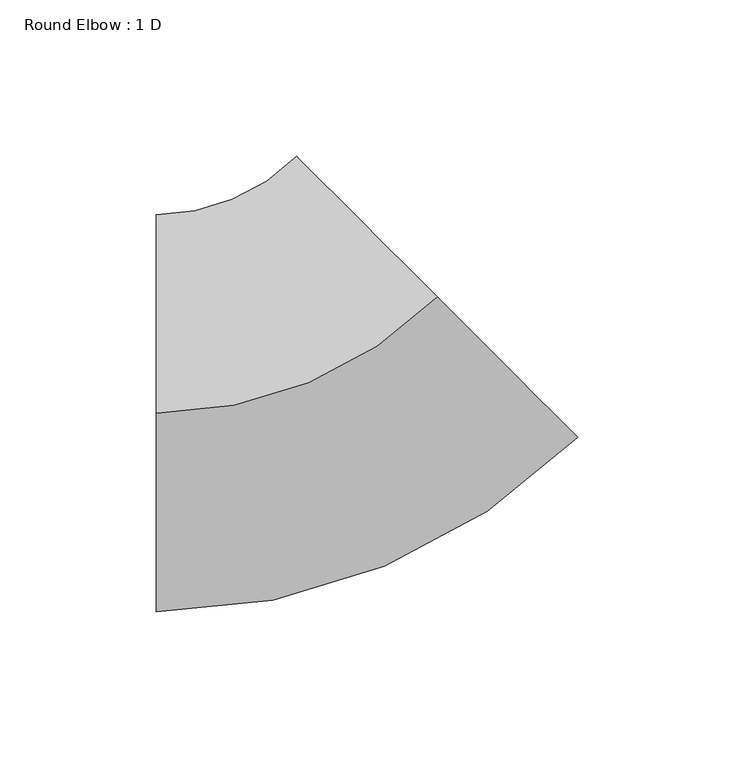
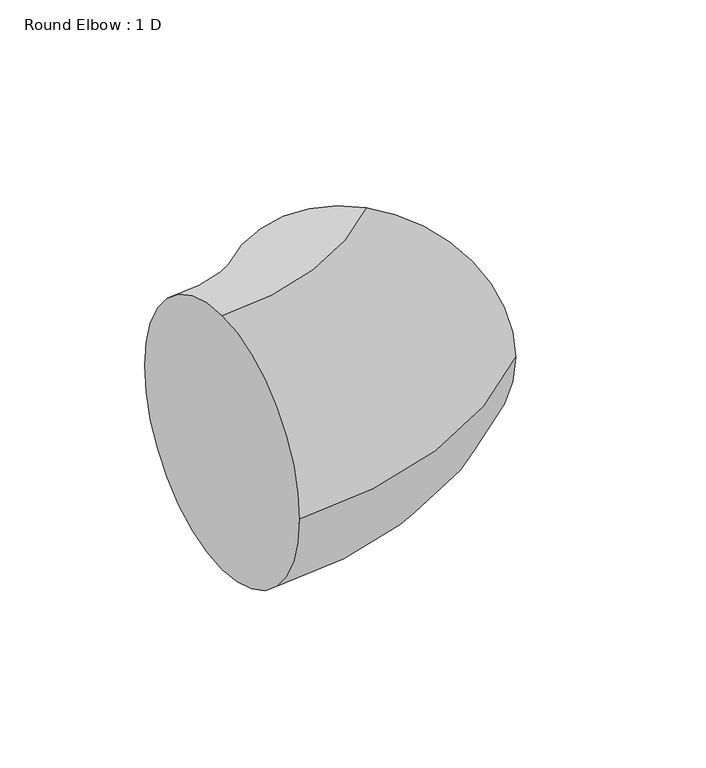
"""IFC4 building model written with IfcOpenShell, lengths in millimetres: duct fitting geometry, Round Elbow : 1 D."""

from ifc_helpers import new_model, si_unit, point, frame, origin, place, context, project, spatial, circle_curve, ellipse_curve, trimmed, source, transform, mapped, element, save
from ifc_brep_helpers import plane_surface, revolved_surface, advanced_brep


def round_elbow_1_d_d98422f0(model_context):
    return source(origin(), model_context, "Body", "AdvancedBrep", [
        advanced_brep(
        [(-52.6051415, 0.0, 63.5), (-52.6051415, 63.5, 0.0), (-52.6051415, 0.0, -63.5), (-52.6051415, -63.5, 0.0), (37.1974427, 37.1974618, 63.5), (82.0987349, -7.7038072, 0.0), (37.1974427, 37.1974618, -63.5), (-7.7038494, 82.0987309, 0.0)],
        [
            (0, 1, circle_curve(frame((-52.6051415, 0.0, 0.0), z_axis=(-1.0, 0.0, 0.0), x_axis=(0.0, 1.0, 0.0)), 63.5)),
            (1, 2, circle_curve(frame((-52.6051415, 0.0, 0.0), z_axis=(-1.0, 0.0, 0.0), x_axis=(0.0, 1.0, 0.0)), 63.5)),
            (2, 3, circle_curve(frame((-52.6051415, 0.0, 0.0), z_axis=(-1.0, 0.0, 0.0), x_axis=(0.0, 1.0, 0.0)), 63.5)),
            (3, 0, circle_curve(frame((-52.6051415, 0.0, 0.0), z_axis=(-1.0, 0.0, 0.0), x_axis=(0.0, 1.0, 0.0)), 63.5)),
            (4, 5, circle_curve(frame((37.1974427, 37.1974618, 0.0), z_axis=(0.7071065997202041, 0.7071069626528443, 0.0), x_axis=(-0.7071069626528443, 0.7071065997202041, 0.0)), 63.5)),
            (5, 6, circle_curve(frame((37.1974427, 37.1974618, 0.0), z_axis=(0.7071065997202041, 0.7071069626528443, 0.0), x_axis=(-0.7071069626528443, 0.7071065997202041, 0.0)), 63.5)),
            (6, 7, circle_curve(frame((37.1974427, 37.1974618, 0.0), z_axis=(0.7071065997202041, 0.7071069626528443, 0.0), x_axis=(-0.7071069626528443, 0.7071065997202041, 0.0)), 63.5)),
            (7, 4, circle_curve(frame((37.1974427, 37.1974618, 0.0), z_axis=(0.7071065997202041, 0.7071069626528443, 0.0), x_axis=(-0.7071069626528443, 0.7071065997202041, 0.0)), 63.5)),
            (7, 1, circle_curve(frame((-52.6051415, 127.0, 0.0), z_axis=(0.0, 0.0, -1.0), x_axis=(0.0, -1.0, 0.0)), 63.5)),
            (0, 4, circle_curve(frame((-52.6051415, 127.0, 63.5), z_axis=(0.0, 0.0, 1.0), x_axis=(0.0, -1.0, 0.0)), 127.0)),
            (6, 2, circle_curve(frame((-52.6051415, 127.0, -63.5), z_axis=(0.0, 0.0, -1.0), x_axis=(0.0, -1.0, 0.0)), 127.0)),
            (5, 3, circle_curve(frame((-52.6051415, 127.0, 0.0), z_axis=(0.0, 0.0, -1.0), x_axis=(0.0, -1.0, 0.0)), 190.5)),
        ],
        [
            plane_surface(frame((-52.6051415, 0.0, 0.0), z_axis=(-1.0, 0.0, 0.0), x_axis=(0.0, 0.0, 1.0))),
            plane_surface(frame((37.1974427, 37.1974618, 0.0), z_axis=(0.7071065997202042, 0.7071069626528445, 0.0), x_axis=(0.0, 0.0, 1.0))),
            revolved_surface(trimmed(ellipse_curve(frame((-52.6051415, 0.0, 0.0), z_axis=(-1.0, 0.0, 0.0), x_axis=(0.0, 1.0, 0.0)), 63.5, 63.5), [point((-52.6051415, 0.0, 63.5))], [point((-52.6051415, 63.5, 0.0))], True, "CARTESIAN"), (-52.6051415, 127.0, 0.0), (0.0, 0.0, 1.0)),
            revolved_surface(trimmed(ellipse_curve(frame((-52.6051415, 0.0, 0.0), z_axis=(-1.0, 0.0, 0.0), x_axis=(0.0, 1.0, 0.0)), 63.5, 63.5), [point((-52.6051415, 63.5, 0.0))], [point((-52.6051415, 0.0, -63.5))], True, "CARTESIAN"), (-52.6051415, 127.0, 0.0), (0.0, 0.0, 1.0)),
            revolved_surface(trimmed(ellipse_curve(frame((-52.6051415, 0.0, 0.0), z_axis=(-1.0, 0.0, 0.0), x_axis=(0.0, 1.0, 0.0)), 63.5, 63.5), [point((-52.6051415, 0.0, -63.5))], [point((-52.6051415, -63.5, 0.0))], True, "CARTESIAN"), (-52.6051415, 127.0, 0.0), (0.0, 0.0, 1.0)),
            revolved_surface(trimmed(ellipse_curve(frame((-52.6051415, 0.0, 0.0), z_axis=(-1.0, 0.0, 0.0), x_axis=(0.0, 1.0, 0.0)), 63.5, 63.5), [point((-52.6051415, -63.5, 0.0))], [point((-52.6051415, 0.0, 63.5))], True, "CARTESIAN"), (-52.6051415, 127.0, 0.0), (0.0, 0.0, 1.0)),
        ],
        [
            (0, [[1, 2, 3, 4]]),
            (1, [[5, 6, 7, 8]]),
            (2, [[9, -1, 10, -8]]),
            (3, [[11, -2, -9, -7]]),
            (4, [[12, -3, -11, -6]]),
            (5, [[-10, -4, -12, -5]]),
        ],
    ),
    ])


if __name__ == "__main__":
    model = new_model("IFC4")
    model_context = context("Model", 3, world=origin())
    ifc_project = project(units=[si_unit("LENGTHUNIT", "METRE", prefix="MILLI")], contexts=[model_context])
    site = spatial("IfcSite", under=ifc_project)
    building = spatial("IfcBuilding", under=site)
    placement = place(None, origin())
    round_elbow_1_d_shape = round_elbow_1_d_d98422f0(model_context)
    element("IfcDuctFitting", 1, ObjectType="Round Elbow : 1 D", at=placement, inside=building, context=model_context, shape_type="MappedRepresentation", body=[
        mapped(round_elbow_1_d_shape, transform((0.0, 0.0, 0.0), x_axis=(1.0, 0.0, 0.0), y_axis=(0.0, 1.0, 0.0), z_axis=(0.0, 0.0, 1.0))),
    ])
    save(model, "model.ifc")
